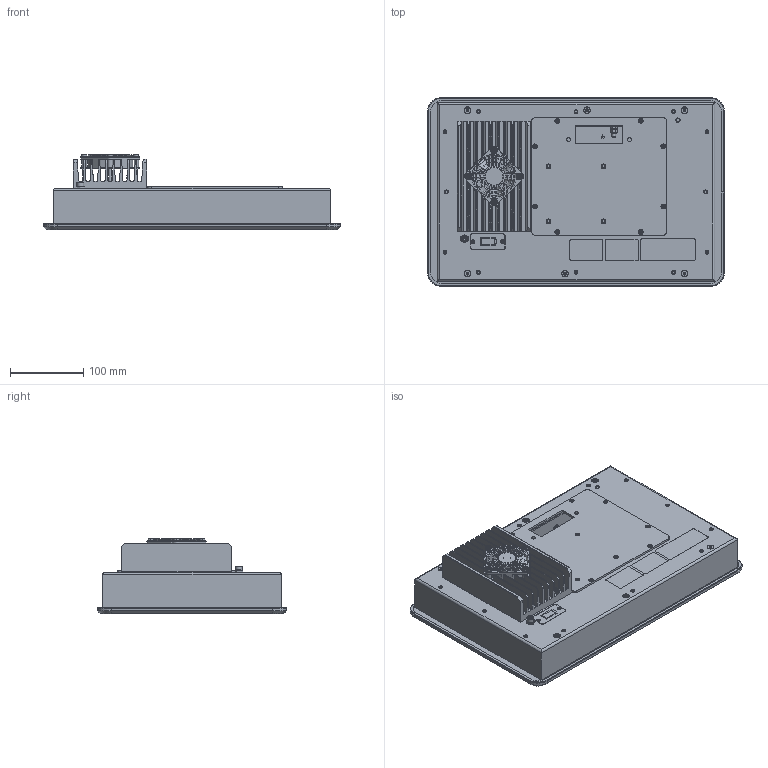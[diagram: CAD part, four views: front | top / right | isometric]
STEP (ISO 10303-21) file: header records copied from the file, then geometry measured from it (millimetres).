
FILE_DESCRIPTION(/* description */ (''),/* implementation_level */ '2;1');
FILE_NAME(/* name */ 'C:\SAPInventorWork\778-41950-00_EXTERN.stp',/* time_stamp */ '2025-01-31T11:27:19+01:00',/* author */ ('Aiple'),/* organization */ (''),/* preprocessor_version */ 'ST-DEVELOPER v18.1',/* originating_system */ 'Autodesk Inventor 2021',/* authorisation */ '');
FILE_SCHEMA (('AUTOMOTIVE_DESIGN { 1 0 10303 214 3 1 1 }'));
Products named in the file (1): 778-41950-00
Bounding box: 404.9 x 257.8 x 103.1 mm (x, y, z)
Volume: 4950918.9 mm3; surface area: 464269 mm2
Topology: 9 solids, 135 shells, 6581 faces, 18704 edges, 12525 vertices
Faces by surface type: plane 3791, cylinder 1526, bspline 854, cone 319, torus 68, sphere 23
Full cylindrical faces by diameter (mm): 0.457 x1, 1.2 x27, 2.156 x2, 2.459 x8, 2.5 x2, 2.8 x6, 2.9 x2, 2.91 x2, 3 x18, 3.242 x16, 3.5 x14, 4 x11, 4.134 x4, 4.22 x8, 4.3 x12, 4.5 x8, 4.7 x2, 5 x4, 5.2 x1, 5.3 x2, 5.38 x12, 5.4 x12, 5.5 x2, 5.54 x12, 5.7 x7, 6.38 x4, 6.4 x4, 6.85 x3, 7 x4, 7.06 x1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
Entity records: 239909 total; most frequent: CARTESIAN_POINT 66782, ORIENTED_EDGE 35920, DIRECTION 31068, EDGE_CURVE 18699, VERTEX_POINT 12557, LINE 12318, VECTOR 12318, AXIS2_PLACEMENT_3D 9375
